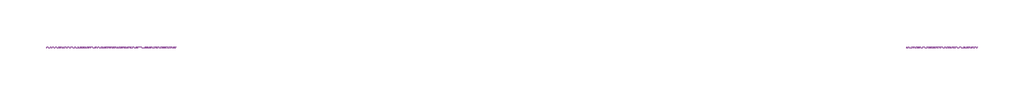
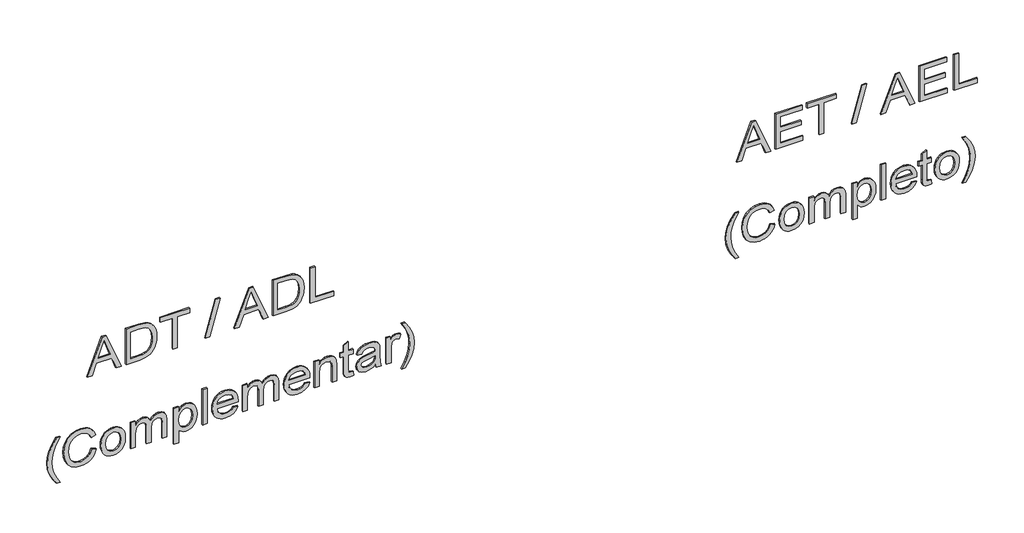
# One storey, part 4 of 5: 2 proxies.
"""IFC4 building model written with IfcOpenShell, lengths in millimetres."""

import ifcopenshell
import ifcopenshell.guid

model = None  # the IFC model being written
_history = None  # IfcOwnerHistory: only IFC2X3 demands one
_inside = {}  # id of a spatial element -> (the spatial element, [elements in it])
_under = {}  # id of a project, library or spatial element -> (it, [spatial elements below it])
_declared = {}  # id of a project -> (the project, [libraries it declares])
_typed = {}  # id of a type object -> (the type object, [elements of that type])
_made_of = {}  # id of a material, layer set ... -> (it, [elements and type objects made of it])


def new_model(schema):
    """Start an empty IFC model of exactly this schema.

    Asked for "IFC4X3", IfcOpenShell would pick the latest addendum, in which some entities
    have other attributes; the version numbers below select the first issue.
    IFC2X3 requires an IfcOwnerHistory on every rooted entity: one is made here for all.
    """
    global model, _history
    if schema == "IFC4X3":
        model = ifcopenshell.file(schema_version=(4, 3, 0, 0))
    else:
        model = ifcopenshell.file(schema=schema)
    _inside.clear()
    _under.clear()
    _declared.clear()
    _typed.clear()
    _made_of.clear()
    _history = None
    if model.schema == "IFC2X3":
        org = make("IfcOrganization", Name="unknown")
        user = make(
            "IfcPersonAndOrganization",
            ThePerson=make("IfcPerson", FamilyName="unknown"),
            TheOrganization=org,
        )
        app = make(
            "IfcApplication",
            ApplicationDeveloper=org,
            Version="unknown",
            ApplicationFullName="unknown",
            ApplicationIdentifier="unknown",
        )
        _history = make(
            "IfcOwnerHistory",
            OwningUser=user,
            OwningApplication=app,
            ChangeAction="ADDED",
            CreationDate=0,
        )
    return model


def make(cls, **values):
    """One entity of the class cls with the attributes given. An attribute that is None is left unset."""
    return model.create_entity(
        cls, **{name: value for name, value in values.items() if value is not None}
    )


def rooted(cls, **values):
    """An entity with a GlobalId (a new one), such as an element, a storey or a relation."""
    return make(cls, GlobalId=ifcopenshell.guid.new(), OwnerHistory=_history, **values)


def si_unit(unit_type, name, prefix=None):
    """IfcSIUnit, for example si_unit("LENGTHUNIT", "METRE", prefix="MILLI")."""
    return make("IfcSIUnit", UnitType=unit_type, Prefix=prefix, Name=name)


def assignment(units):
    """IfcUnitAssignment: the units of a project."""
    return None if units is None else make("IfcUnitAssignment", Units=units)


def point(xyz):
    """IfcCartesianPoint."""
    return None if xyz is None else make("IfcCartesianPoint", Coordinates=xyz)


def direction(xyz):
    """IfcDirection."""
    return None if xyz is None else make("IfcDirection", DirectionRatios=xyz)


def frame(location, z_axis=None, x_axis=None):
    """IfcAxis2Placement3D, a coordinate frame: its origin and axes. An axis left out is left unset."""
    return make(
        "IfcAxis2Placement3D",
        Location=point(location),
        Axis=direction(z_axis),
        RefDirection=direction(x_axis),
    )


def origin():
    """The frame at (0, 0, 0) with its axes left unset."""
    return frame((0.0, 0.0, 0.0))


def place(relative_to, where):
    """IfcLocalPlacement: puts the frame where relative to a parent placement (None: the world)."""
    return make(
        "IfcLocalPlacement", PlacementRelTo=relative_to, RelativePlacement=where
    )


def context(
    kind, dimensions, precision=None, world=None, true_north=None, identifier=None
):
    """IfcGeometricRepresentationContext, for example the 3D "Model" context."""
    return make(
        "IfcGeometricRepresentationContext",
        ContextIdentifier=identifier,
        ContextType=kind,
        CoordinateSpaceDimension=dimensions,
        Precision=precision,
        WorldCoordinateSystem=world,
        TrueNorth=true_north,
    )


def project(units=None, contexts=None):
    """IfcProject with its units and contexts."""
    return rooted(
        "IfcProject",
        Name="project",
        RepresentationContexts=contexts,
        UnitsInContext=assignment(units),
    )


def spatial(cls, under=None, at=None, **own):
    """A site, building, storey or space (cls), placed at a placement, below another one or the project."""
    s = rooted(cls, ObjectPlacement=at, **own)
    if under is not None:
        _under.setdefault(under.id(), (under, []))[1].append(s)
    return s


def polyline(points):
    """IfcPolyline through the points."""
    return make("IfcPolyline", Points=[point(p) for p in points])


def outline(outer, holes=None, kind="AREA"):
    """IfcArbitraryClosedProfileDef: a profile drawn as a closed curve; with holes, ...WithVoids."""
    if holes is None:
        return make("IfcArbitraryClosedProfileDef", ProfileType=kind, OuterCurve=outer)
    return make(
        "IfcArbitraryProfileDefWithVoids",
        ProfileType=kind,
        OuterCurve=outer,
        InnerCurves=holes,
    )


def extrude(swept, where, along, depth):
    """IfcExtrudedAreaSolid: the profile swept, set in the frame where, extruded along a direction by depth."""
    return make(
        "IfcExtrudedAreaSolid",
        SweptArea=swept,
        Position=where,
        ExtrudedDirection=direction(along),
        Depth=depth,
    )


def shape(context_of_items, identifier, shape_type, items):
    """IfcShapeRepresentation: the items that make up one representation, for example the "Body"."""
    return make(
        "IfcShapeRepresentation",
        ContextOfItems=context_of_items,
        RepresentationIdentifier=identifier,
        RepresentationType=shape_type,
        Items=items,
    )


def made_of(thing, what):
    """Note that an element or type object is made of a material, layer set ...; save() writes the relation."""
    if what is not None:
        _made_of.setdefault(what.id(), (what, []))[1].append(thing)
    return thing


def element(
    cls,
    number,
    at=None,
    inside=None,
    cuts=None,
    type_object=None,
    material=None,
    context=None,
    identifier="Body",
    shape_type=None,
    held_by="IfcProductDefinitionShape",
    body=None,
    shapes=None,
    **own,
):
    """One element of the class cls, such as IfcWall. Its Tag is "e" and its number.

    at: its placement. inside: the storey or other place that contains it. cuts: it is an
    opening in that element (IfcRelVoidsElement). A single representation is given by context,
    identifier, shape_type and body (its items); several are given by shapes. held_by: the class
    of the entity that holds the representations. save() writes the other relations.
    """
    e = rooted(cls, Tag="e%d" % number, ObjectPlacement=at, **own)
    if body is not None:
        shapes = [shape(context, identifier, shape_type, body)]
    if shapes is not None:
        e.Representation = make(held_by, Representations=shapes)
    if inside is not None:
        _inside.setdefault(inside.id(), (inside, []))[1].append(e)
    if cuts is not None:
        rooted(
            "IfcRelVoidsElement", RelatingBuildingElement=cuts, RelatedOpeningElement=e
        )
    if type_object is not None:
        _typed.setdefault(type_object.id(), (type_object, []))[1].append(e)
    return made_of(e, material)


def aggregate(whole, parts):
    """IfcRelAggregates: a whole, such as a stair, and the parts it consists of."""
    return rooted("IfcRelAggregates", RelatingObject=whole, RelatedObjects=parts)


def save(model, path):
    """Write the relations noted so far, then the file.

    IfcRelAggregates (storeys below a building ...), IfcRelContainedInSpatialStructure (elements
    in a storey), IfcRelDefinesByType, IfcRelAssociatesMaterial and IfcRelDeclares: one each for
    every whole, place, type object, material and project.
    """
    for whole, parts in _under.values():
        aggregate(whole, parts)
    for where, things in _inside.values():
        rooted(
            "IfcRelContainedInSpatialStructure",
            RelatedElements=things,
            RelatingStructure=where,
        )
    for kind, things in _typed.values():
        rooted("IfcRelDefinesByType", RelatedObjects=things, RelatingType=kind)
    for what, things in _made_of.values():
        rooted("IfcRelAssociatesMaterial", RelatedObjects=things, RelatingMaterial=what)
    for by, libraries in _declared.values():
        rooted("IfcRelDeclares", RelatingContext=by, RelatedDefinitions=libraries)
    model.write(path)


model = new_model("IFC4")

# Units and contexts
model_context = context("Model", 3, world=origin())
ifc_project = project(units=[si_unit("LENGTHUNIT", "METRE", prefix="MILLI")], contexts=[model_context])

# Site, building, storey
site = spatial("IfcSite", under=ifc_project)
building = spatial("IfcBuilding", under=site)
storey = spatial("IfcBuildingStorey", under=building, Name="03 - Marelli - Planta Baixa - Painéis Mistos", Elevation=24000.0)

# Proxies
placement = place(None, origin())
element("IfcBuildingElementProxy", 1, Name="300mm Arial", ObjectType="300mm Arial", at=placement, inside=storey, context=model_context, shape_type="SweptSolid", body=[
    extrude(outline(polyline([(30065.9244535, 22716.8520777), (30065.9244535, 22756.6569096), (30160.1022443, 22791.0906643), (30160.1022443, 22915.2140495), (30065.9244535, 22949.7213807), (30065.9244535, 22989.5262125), (30367.293384, 22869.2288001), (30367.293384, 22837.1494901), (30065.9244535, 22716.8520777)]), holes=[polyline([(30197.7733606, 22804.9230274), (30278.3395176, 22834.4271634), (30329.6222677, 22853.1891451), (30271.8647944, 22874.3055716), (30197.7733606, 22901.4552629), (30197.7733606, 22804.9230274)])]), frame((0.0, 8778.3159498, 0.0), z_axis=(0.0, 1.0, 0.0), x_axis=(0.0, 0.0, 1.0)), (0.0, 0.0, 1.0), 10.0),
    extrude(outline(polyline([(30065.9244535, 23029.7725028), (30065.9244535, 23138.7391498), (30071.0748015, 23187.1892085), (30077.4299629, 23206.7329395), (30086.1947515, 23223.2048559), (30098.0129606, 23237.5522537), (30113.5283837, 23250.7224291), (30133.1824793, 23262.1635592), (30157.4167057, 23271.3238208), (30185.8815751, 23277.3386915), (30218.2275995, 23279.3436483), (30256.303386, 23276.3821983), (30289.8910122, 23267.4978481), (30318.438655, 23252.6538096), (30341.3944915, 23231.8132946), (30354.5830611, 23211.5429966), (30362.9523764, 23187.5203023), (30367.293384, 23133.7359546), (30367.293384, 23029.7725028), (30065.9244535, 23029.7725028)]), holes=[polyline([(30103.5955698, 23067.4436191), (30329.6222677, 23067.4436191), (30329.6222677, 23133.073767), (30328.1139515, 23164.8219832), (30323.589003, 23186.4902327), (30311.0074387, 23207.7814032), (30290.1853178, 23225.5960888), (30259.8718414, 23237.6534212), (30218.8162107, 23241.672532), (30187.8313497, 23239.6215899), (30161.8312897, 23233.4687635), (30140.7240602, 23223.6371172), (30124.4176908, 23210.5497152), (30115.606917, 23198.3728212), (30109.0402234, 23182.5906836), (30104.9567332, 23161.6765922), (30103.5955698, 23134.1038366), (30103.5955698, 23067.4436191)])]), frame((0.0, 8778.3159498, 0.0), z_axis=(0.0, 1.0, 0.0), x_axis=(0.0, 0.0, 1.0)), (0.0, 0.0, 1.0), 10.0),
    extrude(outline(polyline([(30065.9244535, 23406.4836659), (30065.9244535, 23444.1547822), (30329.6222677, 23444.1547822), (30329.6222677, 23543.0414625), (30367.293384, 23543.0414625), (30367.293384, 23307.5969856), (30329.6222677, 23307.5969856), (30329.6222677, 23406.4836659), (30065.9244535, 23406.4836659)])), frame((0.0, 8778.3159498, 0.0), z_axis=(0.0, 1.0, 0.0), x_axis=(0.0, 0.0, 1.0)), (0.0, 0.0, 1.0), 10.0),
    extrude(outline(polyline([(30065.9244535, 23670.18148), (30065.9244535, 23704.1737764), (30367.293384, 23788.9337881), (30367.293384, 23754.9414917), (30065.9244535, 23670.18148)])), frame((0.0, 8778.3159498, 0.0), z_axis=(0.0, 1.0, 0.0), x_axis=(0.0, 0.0, 1.0)), (0.0, 0.0, 1.0), 10.0),
    extrude(outline(polyline([(30065.9244535, 23903.4922413), (30065.9244535, 23943.2970732), (30160.1022443, 23977.730828), (30160.1022443, 24101.8542131), (30065.9244535, 24136.3615443), (30065.9244535, 24176.1663762), (30367.293384, 24055.8689638), (30367.293384, 24023.7896538), (30065.9244535, 23903.4922413)]), holes=[polyline([(30197.7733606, 23991.563191), (30278.3395176, 24021.067327), (30329.6222677, 24039.8293088), (30271.8647944, 24060.9457353), (30197.7733606, 24088.0954265), (30197.7733606, 23991.563191)])]), frame((0.0, 8778.3159498, 0.0), z_axis=(0.0, 1.0, 0.0), x_axis=(0.0, 0.0, 1.0)), (0.0, 0.0, 1.0), 10.0),
    extrude(outline(polyline([(30065.9244535, 24216.4126664), (30065.9244535, 24325.3793134), (30071.0748015, 24373.8293722), (30077.4299629, 24393.3731032), (30086.1947515, 24409.8450195), (30098.0129606, 24424.1924173), (30113.5283837, 24437.3625927), (30133.1824793, 24448.8037228), (30157.4167057, 24457.9639845), (30185.8815751, 24463.9788551), (30218.2275995, 24465.983812), (30256.303386, 24463.0223619), (30289.8910122, 24454.1380117), (30318.438655, 24439.2939732), (30341.3944915, 24418.4534582), (30354.5830611, 24398.1831603), (30362.9523764, 24374.160466), (30367.293384, 24320.3761183), (30367.293384, 24216.4126664), (30065.9244535, 24216.4126664)]), holes=[polyline([(30103.5955698, 24254.0837828), (30329.6222677, 24254.0837828), (30329.6222677, 24319.7139307), (30328.1139515, 24351.4621469), (30323.589003, 24373.1303964), (30311.0074387, 24394.4215669), (30290.1853178, 24412.2362525), (30259.8718414, 24424.2935849), (30218.8162107, 24428.3126957), (30187.8313497, 24426.2617535), (30161.8312897, 24420.1089272), (30140.7240602, 24410.2772809), (30124.4176908, 24397.1898789), (30115.606917, 24385.0129848), (30109.0402234, 24369.2308472), (30104.9567332, 24348.3167558), (30103.5955698, 24320.7440003), (30103.5955698, 24254.0837828)])]), frame((0.0, 8778.3159498, 0.0), z_axis=(0.0, 1.0, 0.0), x_axis=(0.0, 0.0, 1.0)), (0.0, 0.0, 1.0), 10.0),
    extrude(outline(polyline([(30065.9244535, 24517.7815969), (30065.9244535, 24706.1371784), (30103.5955698, 24706.1371784), (30103.5955698, 24555.4527132), (30367.293384, 24555.4527132), (30367.293384, 24517.7815969), (30065.9244535, 24517.7815969)])), frame((0.0, 8778.3159498, 0.0), z_axis=(0.0, 1.0, 0.0), x_axis=(0.0, 0.0, 1.0)), (0.0, 0.0, 1.0), 10.0),
    extrude(outline(polyline([(29249.3155348, 22469.4146478), (29249.3155348, 22497.667985), (29297.5540614, 22468.8260366), (29345.8109821, 22448.2246448), (29394.0862969, 22435.8638098), (29442.3800058, 22431.7435314), (29480.2534572, 22434.1163703), (29517.9429677, 22441.2348869), (29575.7740173, 22462.4248898), (29635.4444769, 22497.667985), (29635.4444769, 22469.4146478), (29584.934279, 22434.7233756), (29534.2033518, 22410.4063757), (29489.4137189, 22398.1559053), (29442.600735, 22394.0724151), (29389.2210575, 22399.5354628), (29337.68079, 22415.9246057), (29290.2791949, 22440.2232114), (29249.3155348, 22469.4146478)])), frame((0.0, 8778.3159498, 0.0), z_axis=(0.0, 1.0, 0.0), x_axis=(0.0, 0.0, 1.0)), (0.0, 0.0, 1.0), 10.0),
    extrude(outline(polyline([(29441.2027835, 22751.94802), (29408.9395325, 22739.761929), (29385.7261786, 22719.9790747), (29371.7098746, 22693.7766796), (29367.0377732, 22662.331966), (29370.4682728, 22635.3570187), (29380.7597717, 22610.3502401), (29397.9858461, 22589.491331), (29422.2200725, 22574.9599922), (29452.3128197, 22566.4343269), (29487.1144565, 22563.5924385), (29515.5333406, 22565.9928685), (29543.1060961, 22573.1941586), (29567.4966724, 22586.3183488), (29586.3690188, 22606.4874792), (29598.4539423, 22633.0669533), (29602.4822501, 22665.4221748), (29598.8494154, 22693.491571), (29587.9509113, 22716.3370429), (29569.1061561, 22734.1793197), (29541.6345681, 22747.2391305), (29550.6108888, 22784.9102468), (29588.4291579, 22768.2727836), (29603.751443, 22756.4706693), (29616.6824952, 22742.3463), (29626.9510013, 22726.16639), (29634.2856486, 22708.1976538), (29640.1533665, 22666.8937028), (29635.6192209, 22629.0386455), (29622.0167841, 22594.4945261), (29599.6771499, 22565.3674691), (29568.9314122, 22543.763599), (29530.9843844, 22530.3818914), (29487.0408801, 22525.9213222), (29445.3782441, 22529.8668566), (29406.4747231, 22541.7034598), (29373.3837376, 22561.0908409), (29349.1587083, 22587.6887092), (29334.3146698, 22622.3891784), (29329.3666569, 22666.0843624), (29331.0014325, 22688.50677), (29335.9057594, 22709.1265558), (29344.0796375, 22727.9437199), (29355.5230668, 22744.9582621), (29370.0796975, 22759.8344903), (29387.5931797, 22772.2367121), (29408.0635135, 22782.1649274), (29431.4906988, 22789.6191364), (29441.2027835, 22751.94802)])), frame((0.0, 8778.3159498, 0.0), z_axis=(0.0, 1.0, 0.0), x_axis=(0.0, 0.0, 1.0)), (0.0, 0.0, 1.0), 10.0),
    extrude(outline(polyline([(29444.7344506, 22827.2902527), (29418.4124939, 22828.9986047), (29395.3646869, 22834.1236607), (29375.5910296, 22842.6654208), (29359.0915221, 22854.6238849), (29346.0868936, 22869.350661), (29336.7978732, 22886.1973571), (29331.224461, 22905.1639733), (29329.3666569, 22926.2505094), (29332.7419742, 22952.8391806), (29342.8679261, 22977.2757421), (29359.1007192, 22997.8495427), (29380.7965599, 23012.849931), (29409.767267, 23022.0101927), (29447.8246594, 23025.0636133), (29472.7049786, 23023.3368672), (29494.7388108, 23018.1566288), (29513.9261561, 23009.5228982), (29530.2670145, 22997.4356754), (29543.3199275, 22982.6261259), (29552.6434368, 22965.825415), (29558.2375424, 22947.0335428), (29560.1022443, 22926.2505094), (29558.5709355, 22907.4241483), (29553.9770091, 22890.0877092), (29546.3204651, 22874.2411923), (29535.6013034, 22859.8845974), (29518.830483, 22845.6245716), (29498.095734, 22835.4388389), (29473.3970566, 22829.3273992), (29444.7344506, 22827.2902527)]), holes=[polyline([(29444.808027, 22864.961369), (29478.8830968, 22869.3207706), (29503.1173232, 22882.3989755), (29517.6026768, 22902.0806623), (29522.431128, 22926.2505094), (29517.5842827, 22950.1720361), (29503.0437468, 22969.8445258), (29479.0854319, 22983.0055042), (29445.9852494, 22987.392497), (29411.1468245, 22983.0330953), (29386.535519, 22969.9548904), (29371.9122097, 22950.3099918), (29367.0377732, 22926.2505094), (29371.8846185, 22902.0806623), (29386.4251544, 22882.3989755), (29410.7145631, 22869.3207706), (29444.808027, 22864.961369)])]), frame((0.0, 8778.3159498, 0.0), z_axis=(0.0, 1.0, 0.0), x_axis=(0.0, 0.0, 1.0)), (0.0, 0.0, 1.0), 10.0),
    extrude(outline(polyline([(29334.0755465, 23067.4436191), (29334.0755465, 23105.1147354), (29445.6909438, 23105.1147354), (29471.6082304, 23106.5494752), (29490.6461236, 23110.8536945), (29504.368122, 23118.3584872), (29514.3377241, 23129.3949471), (29520.407777, 23142.7674576), (29522.431128, 23157.2804023), (29519.3961015, 23174.359324), (29510.2910222, 23185.8648334), (29495.0974958, 23192.4039358), (29473.7971282, 23194.5836366), (29334.0755465, 23194.5836366), (29334.0755465, 23232.2547529), (29459.008272, 23232.2547529), (29487.7214617, 23235.94277), (29507.3479662, 23247.006821), (29518.6603375, 23263.6442842), (29522.431128, 23284.0525379), (29520.9596, 23295.6132296), (29516.5450161, 23305.5736346), (29509.7300021, 23313.3175506), (29501.0571841, 23318.2287752), (29469.6032735, 23321.7236542), (29334.0755465, 23321.7236542), (29334.0755465, 23359.3947705), (29485.7900813, 23359.3947705), (29518.7615051, 23355.0813541), (29541.8920855, 23342.1411049), (29555.5497046, 23321.1994223), (29560.1022443, 23292.8817058), (29557.366122, 23273.3563689), (29549.1577549, 23255.7624124), (29535.4771432, 23240.0998365), (29516.3242869, 23226.368641), (29534.7643719, 23218.1648725), (29548.5875379, 23205.6200965), (29557.2235677, 23188.8262834), (29560.1022443, 23167.8754038), (29557.27875, 23148.3224757), (29548.808267, 23131.0136279), (29535.702471, 23116.4455009), (29518.9730372, 23105.1147354), (29555.3933548, 23105.1147354), (29555.3933548, 23067.4436191), (29334.0755465, 23067.4436191)])), frame((0.0, 8778.3159498, 0.0), z_axis=(0.0, 1.0, 0.0), x_axis=(0.0, 0.0, 1.0)), (0.0, 0.0, 1.0), 10.0),
    extrude(outline(polyline([(29249.3155348, 23415.9014449), (29249.3155348, 23453.5725612), (29363.5061061, 23453.5725612), (29349.9956398, 23464.213548), (29339.0419534, 23477.4481027), (29331.785481, 23492.9083436), (29329.3666569, 23510.2263885), (29332.9810975, 23534.6445559), (29343.8244193, 23557.8671069), (29361.4459669, 23577.806311), (29385.3950848, 23592.374438), (29414.2094421, 23601.2863794), (29446.4267078, 23604.2570265), (29476.7217901, 23601.6266702), (29504.4784866, 23593.7356014), (29527.9861461, 23580.6757906), (29545.5341173, 23562.5392082), (29556.4602125, 23540.2639534), (29560.1022443, 23514.7881252), (29557.4994792, 23495.6582615), (29549.6911838, 23479.6186065), (29536.6773583, 23465.8598199), (29518.4580024, 23453.5725612), (29555.3933548, 23453.5725612), (29555.3933548, 23415.9014449), (29249.3155348, 23415.9014449)]), holes=[polyline([(29442.968617, 23453.5725612), (29477.1356573, 23457.9227658), (29502.0872537, 23470.9733796), (29517.3451594, 23489.670982), (29522.431128, 23510.9621525), (29517.6486621, 23532.1705495), (29503.3012642, 23550.1783732), (29479.3521464, 23562.4840259), (29445.7645202, 23566.5859102), (29410.7237602, 23562.3828584), (29386.2412134, 23549.773703), (29371.8386333, 23531.2784357), (29367.0377732, 23509.4170481), (29371.6730864, 23487.9051484), (29385.5790258, 23469.8697336), (29409.1970499, 23457.6468543), (29442.968617, 23453.5725612)])]), frame((0.0, 8778.3159498, 0.0), z_axis=(0.0, 1.0, 0.0), x_axis=(0.0, 0.0, 1.0)), (0.0, 0.0, 1.0), 10.0),
    extrude(outline(polyline([(23684.3081486, 8778.3159498), (23646.6370323, 8778.3159498), (23646.6370323, 8788.3159498), (23684.3081486, 8788.3159498), (23684.3081486, 8778.3159498)])), frame((0.0, 0.0, 29334.0755465), z_axis=(0.0, 0.0, 1.0), x_axis=(1.0, 0.0, 0.0)), (0.0, 0.0, 1.0), 301.3689304),
    extrude(outline(polyline([(29400.0, 23895.7667195), (29385.1191733, 23885.2085062), (29374.9104479, 23871.4865078), (29369.0059419, 23854.6007242), (29367.0377732, 23834.5511555), (29371.2868103, 23807.8889079), (29384.0339214, 23786.0275203), (29404.7640718, 23770.8799791), (29432.9622268, 23764.3592708), (29432.9622268, 23933.658565), (29443.1157698, 23933.8792942), (29469.3687487, 23932.0927672), (29492.5039277, 23926.7331864), (29512.5213067, 23917.8005517), (29529.4208859, 23905.2948631), (29542.8439802, 23889.9748773), (29552.4319047, 23872.5993508), (29558.1846594, 23853.1682837), (29560.1022443, 23831.6816759), (29558.1800609, 23809.4799975), (29552.4135106, 23789.4488228), (29542.8025935, 23771.588152), (29529.3473095, 23755.8979849), (29512.4109422, 23743.1186841), (29492.3567749, 23733.9906121), (29469.1848077, 23728.5137689), (29442.8950406, 23726.6881545), (29417.467497, 23728.4953748), (29395.0427901, 23733.9170357), (29375.62092, 23742.9531372), (29359.2018867, 23755.6036793), (29346.1489737, 23771.3352331), (29336.8254644, 23789.6143697), (29331.2313588, 23810.4410892), (29329.3666569, 23833.8153915), (29333.6892704, 23869.4723538), (29346.6571107, 23898.1579524), (29367.4608375, 23919.3939406), (29395.2911105, 23932.7020718), (29400.0, 23895.7667195)]), holes=[polyline([(29470.6333431, 23764.3592708), (29491.8693312, 23770.5488853), (29508.3412476, 23785.1446035), (29518.9086579, 23806.1414684), (29522.431128, 23831.5345231), (29518.0165441, 23859.1624609), (29504.7727922, 23881.125016), (29490.535759, 23891.1130122), (29470.6333431, 23896.2081778), (29470.6333431, 23764.3592708)])]), frame((0.0, 8778.3159498, 0.0), z_axis=(0.0, 1.0, 0.0), x_axis=(0.0, 0.0, 1.0)), (0.0, 0.0, 1.0), 10.0),
    extrude(outline(polyline([(29334.0755465, 23971.5504105), (29334.0755465, 24009.2215268), (29445.6909438, 24009.2215268), (29471.6082304, 24010.6562665), (29490.6461236, 24014.9604859), (29504.368122, 24022.4652786), (29514.3377241, 24033.5017384), (29520.407777, 24046.874249), (29522.431128, 24061.3871937), (29519.3961015, 24078.4661153), (29510.2910222, 24089.9716247), (29495.0974958, 24096.5107272), (29473.7971282, 24098.690428), (29334.0755465, 24098.690428), (29334.0755465, 24136.3615443), (29459.008272, 24136.3615443), (29487.7214617, 24140.0495613), (29507.3479662, 24151.1136123), (29518.6603375, 24167.7510755), (29522.431128, 24188.1593292), (29520.9596, 24199.7200209), (29516.5450161, 24209.6804259), (29509.7300021, 24217.4243419), (29501.0571841, 24222.3355666), (29469.6032735, 24225.8304455), (29334.0755465, 24225.8304455), (29334.0755465, 24263.5015618), (29485.7900813, 24263.5015618), (29518.7615051, 24259.1881454), (29541.8920855, 24246.2478963), (29555.5497046, 24225.3062137), (29560.1022443, 24196.9884971), (29557.366122, 24177.4631602), (29549.1577549, 24159.8692038), (29535.4771432, 24144.2066278), (29516.3242869, 24130.4754324), (29534.7643719, 24122.2716639), (29548.5875379, 24109.7268878), (29557.2235677, 24092.9330748), (29560.1022443, 24071.9821951), (29557.27875, 24052.4292671), (29548.808267, 24035.1204192), (29535.702471, 24020.5522922), (29518.9730372, 24009.2215268), (29555.3933548, 24009.2215268), (29555.3933548, 23971.5504105), (29334.0755465, 23971.5504105)])), frame((0.0, 8778.3159498, 0.0), z_axis=(0.0, 1.0, 0.0), x_axis=(0.0, 0.0, 1.0)), (0.0, 0.0, 1.0), 10.0),
    extrude(outline(polyline([(29400.0, 24474.9601327), (29385.1191733, 24464.4019194), (29374.9104479, 24450.679921), (29369.0059419, 24433.7941374), (29367.0377732, 24413.7445687), (29371.2868103, 24387.0823211), (29384.0339214, 24365.2209335), (29404.7640718, 24350.0733923), (29432.9622268, 24343.552684), (29432.9622268, 24512.8519782), (29443.1157698, 24513.0727074), (29469.3687487, 24511.2861804), (29492.5039277, 24505.9265996), (29512.5213067, 24496.9939649), (29529.4208859, 24484.4882763), (29542.8439802, 24469.1682905), (29552.4319047, 24451.792764), (29558.1846594, 24432.3616969), (29560.1022443, 24410.8750891), (29558.1800609, 24388.6734107), (29552.4135106, 24368.6422361), (29542.8025935, 24350.7815652), (29529.3473095, 24335.0913981), (29512.4109422, 24322.3120973), (29492.3567749, 24313.1840253), (29469.1848077, 24307.7071821), (29442.8950406, 24305.8815677), (29417.467497, 24307.688788), (29395.0427901, 24313.1104489), (29375.62092, 24322.1465504), (29359.2018867, 24334.7970925), (29346.1489737, 24350.5286463), (29336.8254644, 24368.8077829), (29331.2313588, 24389.6345024), (29329.3666569, 24413.0088047), (29333.6892704, 24448.6657671), (29346.6571107, 24477.3513656), (29367.4608375, 24498.5873538), (29395.2911105, 24511.895485), (29400.0, 24474.9601327)]), holes=[polyline([(29470.6333431, 24343.552684), (29491.8693312, 24349.7422985), (29508.3412476, 24364.3380167), (29518.9086579, 24385.3348816), (29522.431128, 24410.7279363), (29518.0165441, 24438.3558741), (29504.7727922, 24460.3184292), (29490.535759, 24470.3064254), (29470.6333431, 24475.4015911), (29470.6333431, 24343.552684)])]), frame((0.0, 8778.3159498, 0.0), z_axis=(0.0, 1.0, 0.0), x_axis=(0.0, 0.0, 1.0)), (0.0, 0.0, 1.0), 10.0),
    extrude(outline(polyline([(29334.0755465, 24550.7438237), (29334.0755465, 24588.41494), (29451.5034793, 24588.41494), (29486.2131456, 24592.7099623), (29498.5877762, 24598.0787401), (29507.6422718, 24605.5950291), (29518.7339139, 24624.4029961), (29522.431128, 24646.4667188), (29520.7848561, 24660.3634612), (29515.8460403, 24672.3288231), (29508.1481095, 24681.6638287), (29498.2244927, 24687.6695023), (29464.8943839, 24692.0105098), (29334.0755465, 24692.0105098), (29334.0755465, 24729.6816261), (29469.9711555, 24729.6816261), (29506.391473, 24727.6950633), (29534.0929872, 24716.4010861), (29544.6328064, 24706.3027253), (29552.9285454, 24692.1208744), (29558.3088196, 24675.1155292), (29560.1022443, 24656.5466855), (29557.8765582, 24635.5682147), (29551.1995, 24617.2201002), (29540.0710697, 24601.5023419), (29524.4912672, 24588.41494), (29555.3933548, 24588.41494), (29555.3933548, 24550.7438237), (29334.0755465, 24550.7438237)])), frame((0.0, 8778.3159498, 0.0), z_axis=(0.0, 1.0, 0.0), x_axis=(0.0, 0.0, 1.0)), (0.0, 0.0, 1.0), 10.0),
    extrude(outline(polyline([(29365.4926689, 24861.5305332), (29367.0377732, 24845.1229962), (29369.576159, 24832.2839146), (29376.4555523, 24825.8459797), (29395.8797217, 24823.8594169), (29517.7222385, 24823.8594169), (29517.7222385, 24861.5305332), (29555.3933548, 24861.5305332), (29555.3933548, 24823.8594169), (29631.3241986, 24823.8594169), (29609.1777025, 24786.1883006), (29555.3933548, 24786.1883006), (29555.3933548, 24757.9349633), (29517.7222385, 24757.9349633), (29517.7222385, 24786.1883006), (29394.7760757, 24786.1883006), (29367.7919313, 24787.3287348), (29352.0281878, 24790.7500373), (29342.849532, 24796.967243), (29335.6206508, 24806.4953867), (29330.9301554, 24819.9782618), (29329.3666569, 24838.0596619), (29332.9719005, 24866.2394227), (29365.4926689, 24861.5305332)])), frame((0.0, 8778.3159498, 0.0), z_axis=(0.0, 1.0, 0.0), x_axis=(0.0, 0.0, 1.0)), (0.0, 0.0, 1.0), 10.0),
    extrude(outline(polyline([(29362.3288837, 25040.4683356), (29334.0755465, 25049.8861147), (29334.0755465, 25087.557231), (29365.7501862, 25080.0524383), (29431.1963932, 25078.1394519), (29478.0645594, 25078.1394519), (29511.0267861, 25076.300042), (29525.1442577, 25071.7566993), (29536.5945848, 25064.7485473), (29545.856014, 25054.181137), (29553.406792, 25038.9600195), (29558.4283812, 25018.772495), (29560.1022443, 24993.3058639), (29558.207652, 24966.7539809), (29552.5238752, 24943.6050063), (29543.3452194, 24924.6774777), (29530.9659903, 24910.7899323), (29514.7791825, 24901.0318624), (29494.1777908, 24894.49276), (29489.4689012, 24932.1638763), (29505.1314772, 24939.6502749), (29515.1838527, 24950.3372468), (29520.6193092, 24966.0090198), (29522.431128, 24988.4498215), (29519.7088012, 25012.693245), (29511.5418209, 25030.0940634), (29500.5421493, 25037.8747676), (29483.7299421, 25040.4683356), (29475.3422326, 25040.2476064), (29468.3524747, 25013.429009), (29462.3927864, 24974.9117641), (29456.7274037, 24942.3174193), (29444.3665686, 24915.9402803), (29434.8752131, 24905.3360818), (29422.7351073, 24896.9943575), (29408.5532564, 24891.5864922), (29392.9366657, 24889.7838704), (29367.6079903, 24894.5571393), (29347.2457219, 24908.876946), (29333.8364232, 24932.0994969), (29329.3666569, 24963.5809987), (29331.224461, 24984.4491048), (29336.7978732, 25003.9376535), (29346.896234, 25022.469709), (29362.3288837, 25040.4683356)]), holes=[polyline([(29437.6711163, 25040.4683356), (29427.0025384, 25040.2476064), (29410.0799667, 25038.7576844), (29397.8662844, 25034.2879181), (29386.0112871, 25024.2079515), (29376.0508821, 25009.7134008), (29369.2910505, 24991.8343359), (29367.0377732, 24971.6008261), (29369.0795183, 24952.5169476), (29375.2047535, 24938.6753876), (29384.3834093, 24930.2600869), (29395.5854161, 24927.4549867), (29410.0799667, 24932.6053347), (29420.0127805, 24947.2838263), (29426.1196217, 24979.69423), (29437.6711163, 25040.4683356)])]), frame((0.0, 8778.3159498, 0.0), z_axis=(0.0, 1.0, 0.0), x_axis=(0.0, 0.0, 1.0)), (0.0, 0.0, 1.0), 10.0),
    extrude(outline(polyline([(29334.0755465, 25129.9372369), (29334.0755465, 25167.6083532), (29450.3998333, 25167.6083532), (29473.3556698, 25169.1350635), (29494.39852, 25173.7151943), (29506.1339556, 25179.1690449), (29514.9999117, 25187.2900399), (29520.5733239, 25197.3424154), (29522.431128, 25208.5904074), (29520.4997475, 25221.8341593), (29514.7056061, 25235.0779111), (29548.4771733, 25247.6594753), (29557.1959765, 25228.603188), (29560.1022443, 25209.8412062), (29558.2812284, 25197.5539476), (29552.8181808, 25186.2967585), (29541.6345681, 25175.0763577), (29522.6518572, 25162.8994636), (29555.3933548, 25162.8994636), (29555.3933548, 25129.9372369), (29334.0755465, 25129.9372369)])), frame((0.0, 8778.3159498, 0.0), z_axis=(0.0, 1.0, 0.0), x_axis=(0.0, 0.0, 1.0)), (0.0, 0.0, 1.0), 10.0),
    extrude(outline(polyline([(29249.3155348, 25280.6217021), (29290.2791949, 25309.6751827), (29337.68079, 25334.0013796), (29389.2210575, 25350.4732959), (29442.600735, 25355.9639347), (29489.4137189, 25351.8804446), (29534.2033518, 25339.6299741), (29584.934279, 25315.3129742), (29635.4444769, 25280.6217021), (29635.4444769, 25252.3683649), (29575.1854061, 25287.8321892), (29546.8400984, 25299.8067481), (29517.2807801, 25308.8014629), (29479.9775458, 25315.9199795), (29442.3800058, 25318.2928184), (29394.0862969, 25314.1725401), (29345.8109821, 25301.811705), (29297.5540614, 25281.2103133), (29249.3155348, 25252.3683649), (29249.3155348, 25280.6217021)])), frame((0.0, 8778.3159498, 0.0), z_axis=(0.0, 1.0, 0.0), x_axis=(0.0, 0.0, 1.0)), (0.0, 0.0, 1.0), 10.0),
])
element("IfcBuildingElementProxy", 2, Name="300mm Arial", ObjectType="300mm Arial", at=placement, inside=storey, context=model_context, shape_type="SweptSolid", body=[
    extrude(outline(polyline([(30065.9244535, 27957.0054442), (30065.9244535, 27996.810276), (30160.1022443, 28031.2440308), (30160.1022443, 28155.367416), (30065.9244535, 28189.8747471), (30065.9244535, 28229.679579), (30367.293384, 28109.3821666), (30367.293384, 28077.3028566), (30065.9244535, 27957.0054442)]), holes=[polyline([(30197.7733606, 28045.0763938), (30278.3395176, 28074.5805298), (30329.6222677, 28093.3425116), (30271.8647944, 28114.4589381), (30197.7733606, 28141.6086293), (30197.7733606, 28045.0763938)])]), frame((0.0, 8778.3159498, 0.0), z_axis=(0.0, 1.0, 0.0), x_axis=(0.0, 0.0, 1.0)), (0.0, 0.0, 1.0), 10.0),
    extrude(outline(polyline([(30065.9244535, 28269.9258693), (30065.9244535, 28491.2436776), (30103.5955698, 28491.2436776), (30103.5955698, 28307.5969856), (30202.4822501, 28307.5969856), (30202.4822501, 28477.1170089), (30240.1533665, 28477.1170089), (30240.1533665, 28307.5969856), (30329.6222677, 28307.5969856), (30329.6222677, 28486.534788), (30367.293384, 28486.534788), (30367.293384, 28269.9258693), (30065.9244535, 28269.9258693)])), frame((0.0, 8778.3159498, 0.0), z_axis=(0.0, 1.0, 0.0), x_axis=(0.0, 0.0, 1.0)), (0.0, 0.0, 1.0), 10.0),
    extrude(outline(polyline([(30065.9244535, 28623.0925846), (30065.9244535, 28660.7637009), (30329.6222677, 28660.7637009), (30329.6222677, 28759.6503812), (30367.293384, 28759.6503812), (30367.293384, 28524.2059043), (30329.6222677, 28524.2059043), (30329.6222677, 28623.0925846), (30065.9244535, 28623.0925846)])), frame((0.0, 8778.3159498, 0.0), z_axis=(0.0, 1.0, 0.0), x_axis=(0.0, 0.0, 1.0)), (0.0, 0.0, 1.0), 10.0),
    extrude(outline(polyline([(30065.9244535, 28886.7903988), (30065.9244535, 28920.7826951), (30367.293384, 29005.5427068), (30367.293384, 28971.5504105), (30065.9244535, 28886.7903988)])), frame((0.0, 8778.3159498, 0.0), z_axis=(0.0, 1.0, 0.0), x_axis=(0.0, 0.0, 1.0)), (0.0, 0.0, 1.0), 10.0),
    extrude(outline(polyline([(30065.9244535, 29120.1011601), (30065.9244535, 29159.905992), (30160.1022443, 29194.3397467), (30160.1022443, 29318.4631319), (30065.9244535, 29352.9704631), (30065.9244535, 29392.7752949), (30367.293384, 29272.4778825), (30367.293384, 29240.3985725), (30065.9244535, 29120.1011601)]), holes=[polyline([(30197.7733606, 29208.1721098), (30278.3395176, 29237.6762458), (30329.6222677, 29256.4382275), (30271.8647944, 29277.554654), (30197.7733606, 29304.7043453), (30197.7733606, 29208.1721098)])]), frame((0.0, 8778.3159498, 0.0), z_axis=(0.0, 1.0, 0.0), x_axis=(0.0, 0.0, 1.0)), (0.0, 0.0, 1.0), 10.0),
    extrude(outline(polyline([(30065.9244535, 29433.0215852), (30065.9244535, 29654.3393935), (30103.5955698, 29654.3393935), (30103.5955698, 29470.6927015), (30202.4822501, 29470.6927015), (30202.4822501, 29640.2127249), (30240.1533665, 29640.2127249), (30240.1533665, 29470.6927015), (30329.6222677, 29470.6927015), (30329.6222677, 29649.630504), (30367.293384, 29649.630504), (30367.293384, 29433.0215852), (30065.9244535, 29433.0215852)])), frame((0.0, 8778.3159498, 0.0), z_axis=(0.0, 1.0, 0.0), x_axis=(0.0, 0.0, 1.0)), (0.0, 0.0, 1.0), 10.0),
    extrude(outline(polyline([(30065.9244535, 29710.846068), (30065.9244535, 29899.2016495), (30103.5955698, 29899.2016495), (30103.5955698, 29748.5171843), (30367.293384, 29748.5171843), (30367.293384, 29710.846068), (30065.9244535, 29710.846068)])), frame((0.0, 8778.3159498, 0.0), z_axis=(0.0, 1.0, 0.0), x_axis=(0.0, 0.0, 1.0)), (0.0, 0.0, 1.0), 10.0),
    extrude(outline(polyline([(29249.3155348, 27945.0124911), (29249.3155348, 27973.2658283), (29297.5540614, 27944.4238799), (29345.8109821, 27923.8224882), (29394.0862969, 27911.4616532), (29442.3800058, 27907.3413748), (29480.2534572, 27909.7142137), (29517.9429677, 27916.8327303), (29575.7740173, 27938.0227332), (29635.4444769, 27973.2658283), (29635.4444769, 27945.0124911), (29584.934279, 27910.321219), (29534.2033518, 27886.0042191), (29489.4137189, 27873.7537486), (29442.600735, 27869.6702585), (29389.2210575, 27875.1333061), (29337.68079, 27891.522449), (29290.2791949, 27915.8210548), (29249.3155348, 27945.0124911)])), frame((0.0, 8778.3159498, 0.0), z_axis=(0.0, 1.0, 0.0), x_axis=(0.0, 0.0, 1.0)), (0.0, 0.0, 1.0), 10.0),
    extrude(outline(polyline([(29441.2027835, 28227.5458634), (29408.9395325, 28215.3597723), (29385.7261786, 28195.576918), (29371.7098746, 28169.3745229), (29367.0377732, 28137.9298094), (29370.4682728, 28110.9548621), (29380.7597717, 28085.9480835), (29397.9858461, 28065.0891743), (29422.2200725, 28050.5578355), (29452.3128197, 28042.0321703), (29487.1144565, 28039.1902819), (29515.5333406, 28041.5907119), (29543.1060961, 28048.792002), (29567.4966724, 28061.9161921), (29586.3690188, 28082.0853225), (29598.4539423, 28108.6647967), (29602.4822501, 28141.0200181), (29598.8494154, 28169.0894144), (29587.9509113, 28191.9348863), (29569.1061561, 28209.777163), (29541.6345681, 28222.8369739), (29550.6108888, 28260.5080902), (29588.4291579, 28243.8706269), (29603.751443, 28232.0685127), (29616.6824952, 28217.9441433), (29626.9510013, 28201.7642333), (29634.2856486, 28183.7954971), (29640.1533665, 28142.4915461), (29635.6192209, 28104.6364888), (29622.0167841, 28070.0923695), (29599.6771499, 28040.9653125), (29568.9314122, 28019.3614423), (29530.9843844, 28005.9797348), (29487.0408801, 28001.5191656), (29445.3782441, 28005.4647), (29406.4747231, 28017.3013032), (29373.3837376, 28036.6886843), (29349.1587083, 28063.2865526), (29334.3146698, 28097.9870218), (29329.3666569, 28141.6822057), (29331.0014325, 28164.1046133), (29335.9057594, 28184.7243992), (29344.0796375, 28203.5415632), (29355.5230668, 28220.5561055), (29370.0796975, 28235.4323337), (29387.5931797, 28247.8345554), (29408.0635135, 28257.7627708), (29431.4906988, 28265.2169797), (29441.2027835, 28227.5458634)])), frame((0.0, 8778.3159498, 0.0), z_axis=(0.0, 1.0, 0.0), x_axis=(0.0, 0.0, 1.0)), (0.0, 0.0, 1.0), 10.0),
    extrude(outline(polyline([(29444.7344506, 28302.888096), (29418.4124939, 28304.596448), (29395.3646869, 28309.7215041), (29375.5910296, 28318.2632642), (29359.0915221, 28330.2217283), (29346.0868936, 28344.9485044), (29336.7978732, 28361.7952005), (29331.224461, 28380.7618166), (29329.3666569, 28401.8483527), (29332.7419742, 28428.4370239), (29342.8679261, 28452.8735855), (29359.1007192, 28473.447386), (29380.7965599, 28488.4477744), (29409.767267, 28497.6080361), (29447.8246594, 28500.6614566), (29472.7049786, 28498.9347105), (29494.7388108, 28493.7544722), (29513.9261561, 28485.1207416), (29530.2670145, 28473.0335188), (29543.3199275, 28458.2239692), (29552.6434368, 28441.4232584), (29558.2375424, 28422.6313862), (29560.1022443, 28401.8483527), (29558.5709355, 28383.0219916), (29553.9770091, 28365.6855526), (29546.3204651, 28349.8390357), (29535.6013034, 28335.4824408), (29518.830483, 28321.222415), (29498.095734, 28311.0366822), (29473.3970566, 28304.9252426), (29444.7344506, 28302.888096)]), holes=[polyline([(29444.808027, 28340.5592123), (29478.8830968, 28344.918614), (29503.1173232, 28357.9968189), (29517.6026768, 28377.6785056), (29522.431128, 28401.8483527), (29517.5842827, 28425.7698795), (29503.0437468, 28445.4423692), (29479.0854319, 28458.6033475), (29445.9852494, 28462.9903403), (29411.1468245, 28458.6309387), (29386.535519, 28445.5527338), (29371.9122097, 28425.9078352), (29367.0377732, 28401.8483527), (29371.8846185, 28377.6785056), (29386.4251544, 28357.9968189), (29410.7145631, 28344.918614), (29444.808027, 28340.5592123)])]), frame((0.0, 8778.3159498, 0.0), z_axis=(0.0, 1.0, 0.0), x_axis=(0.0, 0.0, 1.0)), (0.0, 0.0, 1.0), 10.0),
    extrude(outline(polyline([(29334.0755465, 28543.0414625), (29334.0755465, 28580.7125788), (29445.6909438, 28580.7125788), (29471.6082304, 28582.1473186), (29490.6461236, 28586.4515379), (29504.368122, 28593.9563306), (29514.3377241, 28604.9927905), (29520.407777, 28618.365301), (29522.431128, 28632.8782457), (29519.3961015, 28649.9571673), (29510.2910222, 28661.4626767), (29495.0974958, 28668.0017792), (29473.7971282, 28670.18148), (29334.0755465, 28670.18148), (29334.0755465, 28707.8525963), (29459.008272, 28707.8525963), (29487.7214617, 28711.5406133), (29507.3479662, 28722.6046643), (29518.6603375, 28739.2421276), (29522.431128, 28759.6503812), (29520.9596, 28771.2110729), (29516.5450161, 28781.171478), (29509.7300021, 28788.915394), (29501.0571841, 28793.8266186), (29469.6032735, 28797.3214975), (29334.0755465, 28797.3214975), (29334.0755465, 28834.9926138), (29485.7900813, 28834.9926138), (29518.7615051, 28830.6791975), (29541.8920855, 28817.7389483), (29555.5497046, 28796.7972657), (29560.1022443, 28768.4795491), (29557.366122, 28748.9542122), (29549.1577549, 28731.3602558), (29535.4771432, 28715.6976799), (29516.3242869, 28701.9664844), (29534.7643719, 28693.7627159), (29548.5875379, 28681.2179399), (29557.2235677, 28664.4241268), (29560.1022443, 28643.4732472), (29557.27875, 28623.9203191), (29548.808267, 28606.6114712), (29535.702471, 28592.0433442), (29518.9730372, 28580.7125788), (29555.3933548, 28580.7125788), (29555.3933548, 28543.0414625), (29334.0755465, 28543.0414625)])), frame((0.0, 8778.3159498, 0.0), z_axis=(0.0, 1.0, 0.0), x_axis=(0.0, 0.0, 1.0)), (0.0, 0.0, 1.0), 10.0),
    extrude(outline(polyline([(29249.3155348, 28891.4992883), (29249.3155348, 28929.1704046), (29363.5061061, 28929.1704046), (29349.9956398, 28939.8113913), (29339.0419534, 28953.0459461), (29331.785481, 28968.5061869), (29329.3666569, 28985.8242319), (29332.9810975, 29010.2423993), (29343.8244193, 29033.4649502), (29361.4459669, 29053.4041544), (29385.3950848, 29067.9722814), (29414.2094421, 29076.8842227), (29446.4267078, 29079.8548698), (29476.7217901, 29077.2245136), (29504.4784866, 29069.3334448), (29527.9861461, 29056.2736339), (29545.5341173, 29038.1370516), (29556.4602125, 29015.8617968), (29560.1022443, 28990.3859686), (29557.4994792, 28971.2561049), (29549.6911838, 28955.2164499), (29536.6773583, 28941.4576633), (29518.4580024, 28929.1704046), (29555.3933548, 28929.1704046), (29555.3933548, 28891.4992883), (29249.3155348, 28891.4992883)]), holes=[polyline([(29442.968617, 28929.1704046), (29477.1356573, 28933.5206092), (29502.0872537, 28946.571223), (29517.3451594, 28965.2688254), (29522.431128, 28986.5599959), (29517.6486621, 29007.7683929), (29503.3012642, 29025.7762165), (29479.3521464, 29038.0818693), (29445.7645202, 29042.1837535), (29410.7237602, 29037.9807017), (29386.2412134, 29025.3715464), (29371.8386333, 29006.876279), (29367.0377732, 28985.0148915), (29371.6730864, 28963.5029918), (29385.5790258, 28945.467577), (29409.1970499, 28933.2446977), (29442.968617, 28929.1704046)])]), frame((0.0, 8778.3159498, 0.0), z_axis=(0.0, 1.0, 0.0), x_axis=(0.0, 0.0, 1.0)), (0.0, 0.0, 1.0), 10.0),
    extrude(outline(polyline([(29159.905992, 8778.3159498), (29122.2348757, 8778.3159498), (29122.2348757, 8788.3159498), (29159.905992, 8788.3159498), (29159.905992, 8778.3159498)])), frame((0.0, 0.0, 29334.0755465), z_axis=(0.0, 0.0, 1.0), x_axis=(1.0, 0.0, 0.0)), (0.0, 0.0, 1.0), 301.3689304),
    extrude(outline(polyline([(29400.0, 29371.3645628), (29385.1191733, 29360.8063496), (29374.9104479, 29347.0843511), (29369.0059419, 29330.1985676), (29367.0377732, 29310.1489988), (29371.2868103, 29283.4867512), (29384.0339214, 29261.6253637), (29404.7640718, 29246.4778225), (29432.9622268, 29239.9571141), (29432.9622268, 29409.2564083), (29443.1157698, 29409.4771375), (29469.3687487, 29407.6906106), (29492.5039277, 29402.3310298), (29512.5213067, 29393.3983951), (29529.4208859, 29380.8927065), (29542.8439802, 29365.5727207), (29552.4319047, 29348.1971942), (29558.1846594, 29328.766127), (29560.1022443, 29307.2795193), (29558.1800609, 29285.0778408), (29552.4135106, 29265.0466662), (29542.8025935, 29247.1859953), (29529.3473095, 29231.4958282), (29512.4109422, 29218.7165274), (29492.3567749, 29209.5884554), (29469.1848077, 29204.1116122), (29442.8950406, 29202.2859978), (29417.467497, 29204.0932181), (29395.0427901, 29209.514879), (29375.62092, 29218.5509805), (29359.2018867, 29231.2015227), (29346.1489737, 29246.9330765), (29336.8254644, 29265.2122131), (29331.2313588, 29286.0389326), (29329.3666569, 29309.4132348), (29333.6892704, 29345.0701972), (29346.6571107, 29373.7557958), (29367.4608375, 29394.991784), (29395.2911105, 29408.2999151), (29400.0, 29371.3645628)]), holes=[polyline([(29470.6333431, 29239.9571141), (29491.8693312, 29246.1467287), (29508.3412476, 29260.7424469), (29518.9086579, 29281.7393117), (29522.431128, 29307.1323665), (29518.0165441, 29334.7603043), (29504.7727922, 29356.7228594), (29490.535759, 29366.7108556), (29470.6333431, 29371.8060212), (29470.6333431, 29239.9571141)])]), frame((0.0, 8778.3159498, 0.0), z_axis=(0.0, 1.0, 0.0), x_axis=(0.0, 0.0, 1.0)), (0.0, 0.0, 1.0), 10.0),
    extrude(outline(polyline([(29365.4926689, 29527.199376), (29367.0377732, 29510.791839), (29369.576159, 29497.9527574), (29376.4555523, 29491.5148224), (29395.8797217, 29489.5282597), (29517.7222385, 29489.5282597), (29517.7222385, 29527.199376), (29555.3933548, 29527.199376), (29555.3933548, 29489.5282597), (29631.3241986, 29489.5282597), (29609.1777025, 29451.8571434), (29555.3933548, 29451.8571434), (29555.3933548, 29423.6038061), (29517.7222385, 29423.6038061), (29517.7222385, 29451.8571434), (29394.7760757, 29451.8571434), (29367.7919313, 29452.9975775), (29352.0281878, 29456.4188801), (29342.849532, 29462.6360858), (29335.6206508, 29472.1642295), (29330.9301554, 29485.6471046), (29329.3666569, 29503.7285047), (29332.9719005, 29531.9082655), (29365.4926689, 29527.199376)])), frame((0.0, 8778.3159498, 0.0), z_axis=(0.0, 1.0, 0.0), x_axis=(0.0, 0.0, 1.0)), (0.0, 0.0, 1.0), 10.0),
    extrude(outline(polyline([(29444.7344506, 29555.4527132), (29418.4124939, 29557.1610652), (29395.3646869, 29562.2861213), (29375.5910296, 29570.8278813), (29359.0915221, 29582.7863454), (29346.0868936, 29597.5131216), (29336.7978732, 29614.3598177), (29331.224461, 29633.3264338), (29329.3666569, 29654.4129699), (29332.7419742, 29681.0016411), (29342.8679261, 29705.4382026), (29359.1007192, 29726.0120032), (29380.7965599, 29741.0123916), (29409.767267, 29750.1726532), (29447.8246594, 29753.2260738), (29472.7049786, 29751.4993277), (29494.7388108, 29746.3190893), (29513.9261561, 29737.6853588), (29530.2670145, 29725.598136), (29543.3199275, 29710.7885864), (29552.6434368, 29693.9878755), (29558.2375424, 29675.1960034), (29560.1022443, 29654.4129699), (29558.5709355, 29635.5866088), (29553.9770091, 29618.2501698), (29546.3204651, 29602.4036528), (29535.6013034, 29588.047058), (29518.830483, 29573.7870321), (29498.095734, 29563.6012994), (29473.3970566, 29557.4898597), (29444.7344506, 29555.4527132)]), holes=[polyline([(29444.808027, 29593.1238295), (29478.8830968, 29597.4832312), (29503.1173232, 29610.5614361), (29517.6026768, 29630.2431228), (29522.431128, 29654.4129699), (29517.5842827, 29678.3344966), (29503.0437468, 29698.0069863), (29479.0854319, 29711.1679647), (29445.9852494, 29715.5549575), (29411.1468245, 29711.1955559), (29386.535519, 29698.1173509), (29371.9122097, 29678.4724524), (29367.0377732, 29654.4129699), (29371.8846185, 29630.2431228), (29386.4251544, 29610.5614361), (29410.7145631, 29597.4832312), (29444.808027, 29593.1238295)])]), frame((0.0, 8778.3159498, 0.0), z_axis=(0.0, 1.0, 0.0), x_axis=(0.0, 0.0, 1.0)), (0.0, 0.0, 1.0), 10.0),
    extrude(outline(polyline([(29249.3155348, 29805.0238587), (29290.2791949, 29834.0773393), (29337.68079, 29858.4035362), (29389.2210575, 29874.8754526), (29442.600735, 29880.3660913), (29489.4137189, 29876.2826012), (29534.2033518, 29864.0321308), (29584.934279, 29839.7151309), (29635.4444769, 29805.0238587), (29635.4444769, 29776.7705215), (29575.1854061, 29812.2343458), (29546.8400984, 29824.2089048), (29517.2807801, 29833.2036196), (29479.9775458, 29840.3221362), (29442.3800058, 29842.694975), (29394.0862969, 29838.5746967), (29345.8109821, 29826.2138617), (29297.5540614, 29805.6124699), (29249.3155348, 29776.7705215), (29249.3155348, 29805.0238587)])), frame((0.0, 8778.3159498, 0.0), z_axis=(0.0, 1.0, 0.0), x_axis=(0.0, 0.0, 1.0)), (0.0, 0.0, 1.0), 10.0),
])

save(model, "model.ifc")
